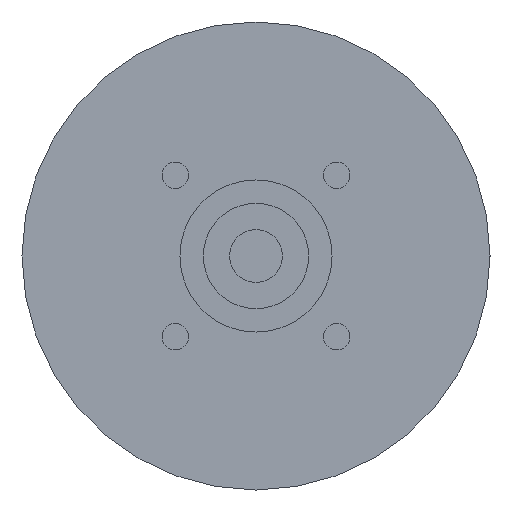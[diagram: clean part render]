
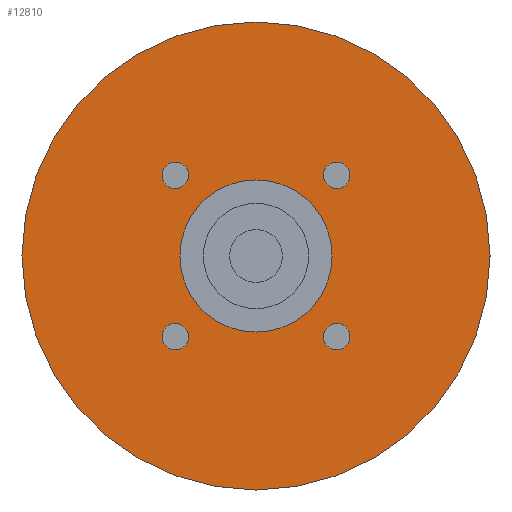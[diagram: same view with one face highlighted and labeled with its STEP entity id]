
A CAD part, left-side view. The second image highlights one B-rep face of the part: STEP entity #12810.
In plain terms, the highlighted planar face has unit normal (-1, 0, 0) as drawn and (0, 0, -1) by its records, which use the part's own axes.
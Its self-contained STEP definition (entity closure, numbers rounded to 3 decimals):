
#11590=CARTESIAN_POINT('',(0.,0.,
-42.2));
#11600=DIRECTION('',(0.,0.,-1.));
#11610=DIRECTION('',(0.,-1.,0.));
#11620=AXIS2_PLACEMENT_3D('',#11590,#11600,#11610);
#11630=CIRCLE('',#11620,40.);
#11640=CARTESIAN_POINT('',(0.,-40.,-42.2));
#11650=VERTEX_POINT('',#11640);
#11660=CARTESIAN_POINT('',(-40.,0.,-42.2));
#11670=VERTEX_POINT('',#11660);
#11680=EDGE_CURVE('',#11650,#11670,#11630,.T.);
#11820=CARTESIAN_POINT('',(40.,0.,-42.2));
#11830=VERTEX_POINT('',#11820);
#11860=EDGE_CURVE('',#11830,#11650,#11630,.T.);
#11910=CARTESIAN_POINT('',(0.,0.,
-42.2));
#11920=DIRECTION('',(0.,0.,-1.));
#11930=DIRECTION('',(1.,0.,0.));
#11940=AXIS2_PLACEMENT_3D('',#11910,#11920,#11930);
#11950=PLANE('',#11940);
#11960=CARTESIAN_POINT('',(13.789,13.789,-42.2));
#11970=DIRECTION('',(0.,0.,-1.));
#11980=DIRECTION('',(0.,1.,0.));
#11990=AXIS2_PLACEMENT_3D('',#11960,#11970,#11980);
#12000=CIRCLE('',#11990,2.25);
#12010=CARTESIAN_POINT('',(13.789,16.039,-42.2));
#12020=VERTEX_POINT('',#12010);
#12030=CARTESIAN_POINT('',(13.789,11.539,-42.2));
#12040=VERTEX_POINT('',#12030);
#12050=EDGE_CURVE('',#12020,#12040,#12000,.T.);
#12060=ORIENTED_EDGE('',*,*,#12050,.F.);
#12070=EDGE_CURVE('',#12040,#12020,#12000,.T.);
#12080=ORIENTED_EDGE('',*,*,#12070,.F.);
#12090=EDGE_LOOP('',(#12080,#12060));
#12100=FACE_BOUND('',#12090,.T.);
#12110=CARTESIAN_POINT('',(-13.789,13.789,-42.2));
#12120=DIRECTION('',(0.,0.,-1.));
#12130=DIRECTION('',(-1.,0.,0.));
#12140=AXIS2_PLACEMENT_3D('',#12110,#12120,#12130);
#12150=CIRCLE('',#12140,2.25);
#12160=CARTESIAN_POINT('',(-16.039,13.789,-42.2));
#12170=VERTEX_POINT('',#12160);
#12180=CARTESIAN_POINT('',(-11.539,13.789,-42.2));
#12190=VERTEX_POINT('',#12180);
#12200=EDGE_CURVE('',#12170,#12190,#12150,.T.);
#12210=ORIENTED_EDGE('',*,*,#12200,.F.);
#12220=EDGE_CURVE('',#12190,#12170,#12150,.T.);
#12230=ORIENTED_EDGE('',*,*,#12220,.F.);
#12240=EDGE_LOOP('',(#12230,#12210));
#12250=FACE_BOUND('',#12240,.T.);
#12260=CARTESIAN_POINT('',(-13.789,-13.789,-42.2));
#12270=DIRECTION('',(0.,0.,-1.));
#12280=DIRECTION('',(0.,-1.,0.));
#12290=AXIS2_PLACEMENT_3D('',#12260,#12270,#12280);
#12300=CIRCLE('',#12290,2.25);
#12310=CARTESIAN_POINT('',(-13.789,-16.039,-42.2));
#12320=VERTEX_POINT('',#12310);
#12330=CARTESIAN_POINT('',(-13.789,-11.539,-42.2));
#12340=VERTEX_POINT('',#12330);
#12350=EDGE_CURVE('',#12320,#12340,#12300,.T.);
#12360=ORIENTED_EDGE('',*,*,#12350,.F.);
#12370=EDGE_CURVE('',#12340,#12320,#12300,.T.);
#12380=ORIENTED_EDGE('',*,*,#12370,.F.);
#12390=EDGE_LOOP('',(#12380,#12360));
#12400=FACE_BOUND('',#12390,.T.);
#12410=CARTESIAN_POINT('',(0.,0.,
-42.2));
#12420=DIRECTION('',(0.,0.,1.));
#12430=DIRECTION('',(0.,1.,0.));
#12440=AXIS2_PLACEMENT_3D('',#12410,#12420,#12430);
#12450=CIRCLE('',#12440,13.);
#12460=CARTESIAN_POINT('',(-13.,0.,-42.2));
#12470=VERTEX_POINT('',#12460);
#12480=CARTESIAN_POINT('',(13.,0.,-42.2));
#12490=VERTEX_POINT('',#12480);
#12500=EDGE_CURVE('',#12470,#12490,#12450,.T.);
#12510=ORIENTED_EDGE('',*,*,#12500,.T.);
#12520=CARTESIAN_POINT('',(0.,13.,-42.2));
#12530=VERTEX_POINT('',#12520);
#12540=EDGE_CURVE('',#12530,#12470,#12450,.T.);
#12550=ORIENTED_EDGE('',*,*,#12540,.T.);
#12560=EDGE_CURVE('',#12490,#12530,#12450,.T.);
#12570=ORIENTED_EDGE('',*,*,#12560,.T.);
#12580=EDGE_LOOP('',(#12570,#12550,#12510));
#12590=FACE_BOUND('',#12580,.T.);
#12600=CARTESIAN_POINT('',(13.789,-13.789,-42.2));
#12610=DIRECTION('',(0.,0.,-1.));
#12620=DIRECTION('',(1.,0.,0.));
#12630=AXIS2_PLACEMENT_3D('',#12600,#12610,#12620);
#12640=CIRCLE('',#12630,2.25);
#12650=CARTESIAN_POINT('',(16.039,-13.789,-42.2));
#12660=VERTEX_POINT('',#12650);
#12670=CARTESIAN_POINT('',(11.539,-13.789,-42.2));
#12680=VERTEX_POINT('',#12670);
#12690=EDGE_CURVE('',#12660,#12680,#12640,.T.);
#12700=ORIENTED_EDGE('',*,*,#12690,.F.);
#12710=EDGE_CURVE('',#12680,#12660,#12640,.T.);
#12720=ORIENTED_EDGE('',*,*,#12710,.F.);
#12730=EDGE_LOOP('',(#12720,#12700));
#12740=FACE_BOUND('',#12730,.T.);
#12750=EDGE_CURVE('',#11670,#11830,#11630,.T.);
#12760=ORIENTED_EDGE('',*,*,#12750,.T.);
#12770=ORIENTED_EDGE('',*,*,#11680,.T.);
#12780=ORIENTED_EDGE('',*,*,#11860,.T.);
#12790=EDGE_LOOP('',(#12780,#12770,#12760));
#12800=FACE_OUTER_BOUND('',#12790,.T.);
#12810=ADVANCED_FACE('',(#12100,#12250,#12400,#12590,#12740,#12800),
#11950,.T.);
